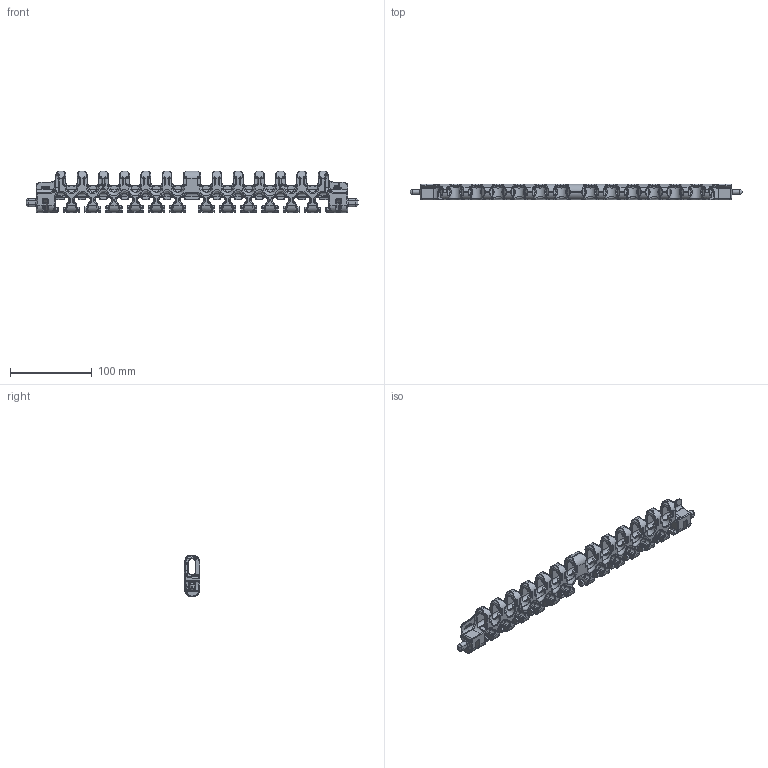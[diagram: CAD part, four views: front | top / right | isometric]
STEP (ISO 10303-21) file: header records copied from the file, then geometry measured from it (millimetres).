
FILE_DESCRIPTION((''),'2;1');
FILE_NAME('UNI_FLEX_ONE_O_K1500','2009-08-27T',('jas'),(''),'PRO/ENGINEER BY PARAMETRIC TECHNOLOGY CORPORATION, 2008490','PRO/ENGINEER BY PARAMETRIC TECHNOLOGY CORPORATION, 2008490','');
FILE_SCHEMA(('AUTOMOTIVE_DESIGN { 1 0 10303 214 1 1 1 1 }'));
Products named in the file (1): UNI_FLEX_ONE_O_K1500
Bounding box: 406.4 x 19.05 x 51 mm (x, y, z)
Volume: 135204.2 mm3; surface area: 61541.1 mm2
Topology: 1 solids, 1 shells, 4277 faces, 10730 edges, 6414 vertices
Faces by surface type: cylinder 1385, plane 1074, bspline 1044, torus 722, sphere 50, extrusion 2
Entity records: 207062 total; most frequent: CARTESIAN_POINT 112131, ORIENTED_EDGE 21360, DIRECTION 18334, EDGE_CURVE 10680, AXIS2_PLACEMENT_3D 7055, VERTEX_POINT 6414, EDGE_LOOP 4312, FACE_OUTER_BOUND 4277
